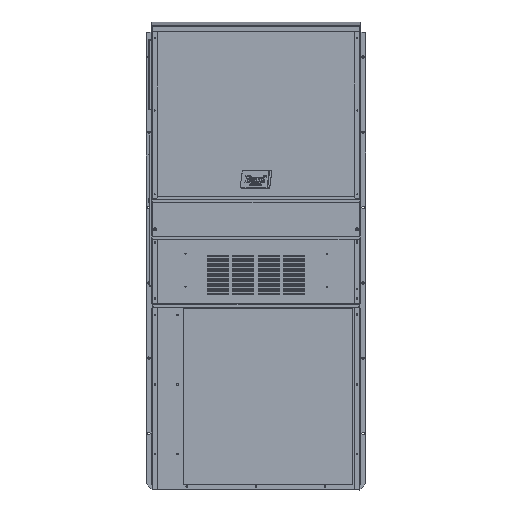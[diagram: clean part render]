
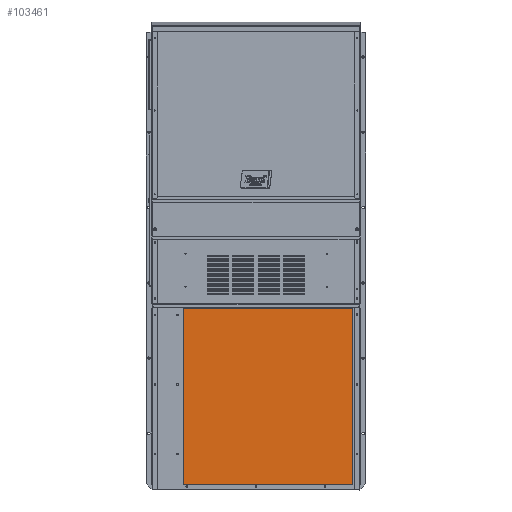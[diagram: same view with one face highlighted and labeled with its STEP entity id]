
A CAD part, top view. The second image highlights one B-rep face of the part: STEP entity #103461.
In plain terms, the highlighted planar face has unit normal (0, 0, 1).
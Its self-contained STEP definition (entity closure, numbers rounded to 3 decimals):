
#2014 = FACE_OUTER_BOUND ( 'NONE', #145143, .T. ) ;
#6469 = DIRECTION ( 'NONE',  ( 0., 0., 1. ) ) ;
#9838 = VECTOR ( 'NONE', #111142, 39.37 ) ;
#10306 = AXIS2_PLACEMENT_3D ( 'NONE', #74475, #6469, #85944 ) ;
#17496 = PLANE ( 'NONE',  #10306 ) ;
#21322 = VERTEX_POINT ( 'NONE', #140832 ) ;
#22881 = VERTEX_POINT ( 'NONE', #83451 ) ;
#25463 = CARTESIAN_POINT ( 'NONE',  ( -28.081, -73.703, 16.411 ) ) ;
#32139 = DIRECTION ( 'NONE',  ( 0., -1., 0. ) ) ;
#32872 = VECTOR ( 'NONE', #85553, 39.37 ) ;
#35642 = VERTEX_POINT ( 'NONE', #50492 ) ;
#36613 = EDGE_CURVE ( 'NONE', #22881, #35642, #39529, .T. ) ;
#38653 = LINE ( 'NONE', #109109, #125563 ) ;
#39529 = LINE ( 'NONE', #77747, #126426 ) ;
#40014 = LINE ( 'NONE', #142527, #32872 ) ;
#43645 = CARTESIAN_POINT ( 'NONE',  ( -28.081, -45.634, 16.411 ) ) ;
#47196 = LINE ( 'NONE', #43645, #9838 ) ;
#49489 = ORIENTED_EDGE ( 'NONE', *, *, #133658, .F. ) ;
#50492 = CARTESIAN_POINT ( 'NONE',  ( -1.078, -73.703, 16.411 ) ) ;
#52538 = DIRECTION ( 'NONE',  ( 1., 0., 0. ) ) ;
#65563 = VERTEX_POINT ( 'NONE', #25463 ) ;
#74475 = CARTESIAN_POINT ( 'NONE',  ( -33.349, -74.383, 16.411 ) ) ;
#77747 = CARTESIAN_POINT ( 'NONE',  ( -1.078, -45.634, 16.411 ) ) ;
#83451 = CARTESIAN_POINT ( 'NONE',  ( -1.078, -45.634, 16.411 ) ) ;
#85553 = DIRECTION ( 'NONE',  ( -1., 0., 0. ) ) ;
#85944 = DIRECTION ( 'NONE',  ( 0., -1., 0. ) ) ;
#103461 = ADVANCED_FACE ( 'NONE', ( #2014 ), #17496, .T. ) ;
#109109 = CARTESIAN_POINT ( 'NONE',  ( -1.078, -45.634, 16.411 ) ) ;
#111142 = DIRECTION ( 'NONE',  ( 0., 1., 0. ) ) ;
#114100 = EDGE_CURVE ( 'NONE', #35642, #65563, #40014, .T. ) ;
#116513 = ORIENTED_EDGE ( 'NONE', *, *, #123148, .F. ) ;
#123148 = EDGE_CURVE ( 'NONE', #21322, #22881, #38653, .T. ) ;
#125563 = VECTOR ( 'NONE', #52538, 39.37 ) ;
#126426 = VECTOR ( 'NONE', #32139, 39.37 ) ;
#133658 = EDGE_CURVE ( 'NONE', #65563, #21322, #47196, .T. ) ;
#139470 = ORIENTED_EDGE ( 'NONE', *, *, #114100, .F. ) ;
#140832 = CARTESIAN_POINT ( 'NONE',  ( -28.081, -45.634, 16.411 ) ) ;
#141263 = ORIENTED_EDGE ( 'NONE', *, *, #36613, .F. ) ;
#142527 = CARTESIAN_POINT ( 'NONE',  ( -1.078, -73.703, 16.411 ) ) ;
#145143 = EDGE_LOOP ( 'NONE', ( #116513, #49489, #139470, #141263 ) ) ;
